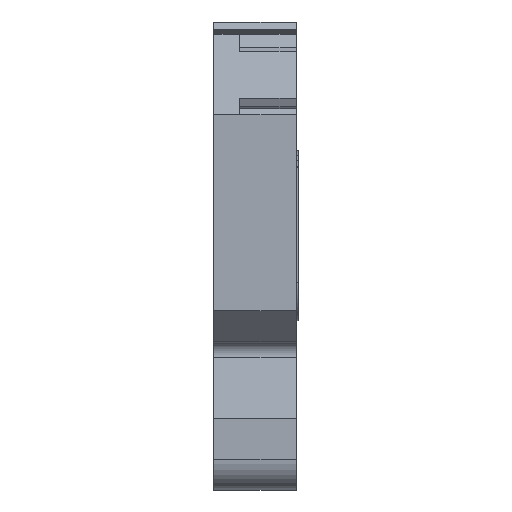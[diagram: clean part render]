
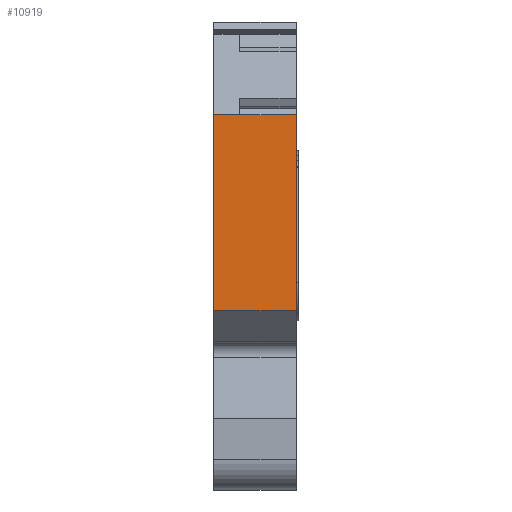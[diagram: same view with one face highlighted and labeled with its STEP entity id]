
A CAD part, left-side view. The second image highlights one B-rep face of the part: STEP entity #10919.
In plain terms, the highlighted planar face has unit normal (-1, 0, 0).
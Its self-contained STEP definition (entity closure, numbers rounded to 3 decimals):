
#192 = CARTESIAN_POINT ( 'NONE',  ( -31.5, 0., 10.5 ) ) ;
#489 = DIRECTION ( 'NONE',  ( 0., 0., 1. ) ) ;
#1139 = VECTOR ( 'NONE', #489, 1000. ) ;
#1207 = EDGE_CURVE ( 'NONE', #4506, #10039, #3380, .T. ) ;
#1545 = CARTESIAN_POINT ( 'NONE',  ( -31.5, 0., 29.5 ) ) ;
#1860 = CARTESIAN_POINT ( 'NONE',  ( -31.5, -8., 10.5 ) ) ;
#2242 = EDGE_LOOP ( 'NONE', ( #8075, #2952, #5589, #5317 ) ) ;
#2952 = ORIENTED_EDGE ( 'NONE', *, *, #1207, .T. ) ;
#3150 = CARTESIAN_POINT ( 'NONE',  ( -31.5, 0., 29.5 ) ) ;
#3380 = LINE ( 'NONE', #12319, #6546 ) ;
#3392 = VERTEX_POINT ( 'NONE', #3723 ) ;
#3504 = FACE_OUTER_BOUND ( 'NONE', #2242, .T. ) ;
#3545 = CARTESIAN_POINT ( 'NONE',  ( -31.5, 0., 10.5 ) ) ;
#3723 = CARTESIAN_POINT ( 'NONE',  ( -31.5, -8., 29.5 ) ) ;
#4506 = VERTEX_POINT ( 'NONE', #3545 ) ;
#4845 = EDGE_CURVE ( 'NONE', #3392, #11305, #6427, .T. ) ;
#5317 = ORIENTED_EDGE ( 'NONE', *, *, #4845, .T. ) ;
#5530 = LINE ( 'NONE', #10140, #1139 ) ;
#5589 = ORIENTED_EDGE ( 'NONE', *, *, #12663, .T. ) ;
#5687 = DIRECTION ( 'NONE',  ( -1., 0., 0. ) ) ;
#5794 = VECTOR ( 'NONE', #10821, 1000. ) ;
#6427 = LINE ( 'NONE', #3150, #5794 ) ;
#6438 = EDGE_CURVE ( 'NONE', #4506, #11305, #5530, .T. ) ;
#6443 = DIRECTION ( 'NONE',  ( 0., -1., 0. ) ) ;
#6472 = DIRECTION ( 'NONE',  ( 0., 0., 1. ) ) ;
#6546 = VECTOR ( 'NONE', #6443, 1000. ) ;
#6749 = VECTOR ( 'NONE', #6472, 1000. ) ;
#7784 = LINE ( 'NONE', #1860, #6749 ) ;
#8075 = ORIENTED_EDGE ( 'NONE', *, *, #6438, .F. ) ;
#10039 = VERTEX_POINT ( 'NONE', #12443 ) ;
#10140 = CARTESIAN_POINT ( 'NONE',  ( -31.5, 0., -6.9 ) ) ;
#10290 = DIRECTION ( 'NONE',  ( 0., 0., 1. ) ) ;
#10757 = AXIS2_PLACEMENT_3D ( 'NONE', #192, #5687, #10290 ) ;
#10821 = DIRECTION ( 'NONE',  ( 0., 1., 0. ) ) ;
#10919 = ADVANCED_FACE ( 'NONE', ( #3504 ), #11604, .T. ) ;
#11305 = VERTEX_POINT ( 'NONE', #1545 ) ;
#11604 = PLANE ( 'NONE',  #10757 ) ;
#12319 = CARTESIAN_POINT ( 'NONE',  ( -31.5, 0., 10.5 ) ) ;
#12443 = CARTESIAN_POINT ( 'NONE',  ( -31.5, -8., 10.5 ) ) ;
#12663 = EDGE_CURVE ( 'NONE', #10039, #3392, #7784, .T. ) ;
